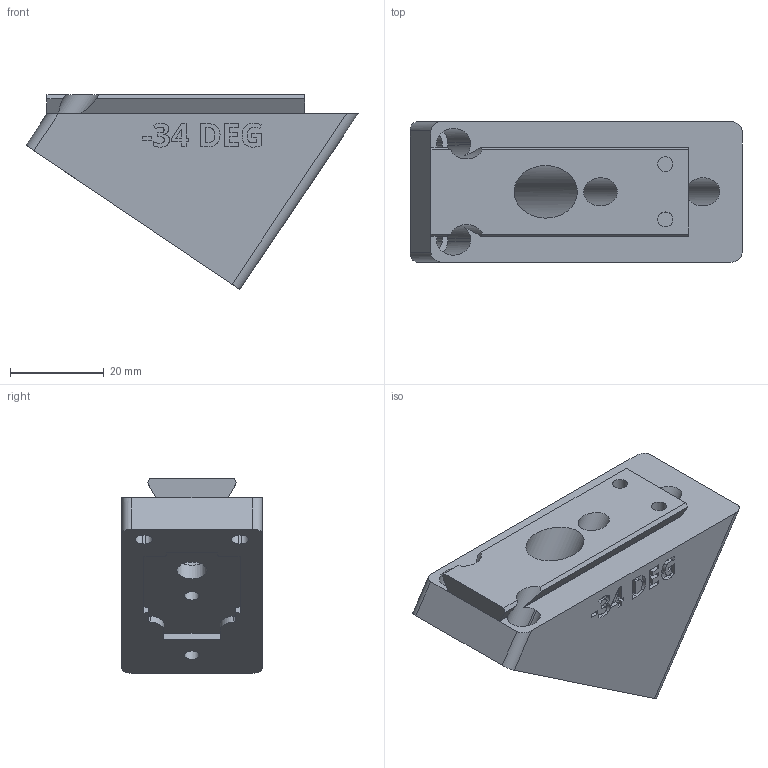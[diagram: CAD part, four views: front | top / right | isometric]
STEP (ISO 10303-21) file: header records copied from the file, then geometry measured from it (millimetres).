
FILE_DESCRIPTION(/* description */ ('STEP AP242 Edition 2','CAx-IF Rec.Pracs.---Representation and Presentation of Product Manufacturing Information (PMI)---4.0---2014-10-13','CAx-IF Rec.Pracs.---3D Tessellated Geometry---0.4---2014-09-14','2;1','CAx-IF Rec.Pracs.---User Defined Attributes---1.5---2016-08-15'),/* implementation_level */ '2;1');
FILE_NAME(/* name */ 'Camera Wedges - CAMERA MOUNTING WEDGE, NEG, -34 DEG',/* time_stamp */ '2026-08-11T00:08:02Z',/* author */ (''),/* organization */ (''),/* preprocessor_version */ 'ST-DEVELOPER v20',/* originating_system */ 'ONSHAPE BY PTC INC, 1.219',/* authorisation */ ' ');
FILE_SCHEMA (('AP242_MANAGED_MODEL_BASED_3D_ENGINEERING_MIM_LF { 1 0 10303 442 3 1 4 }'));
Length unit declared in the file: metre
Products named in the file (1): CAMERA MOUNTING WEDGE, NEG, -34 DEG
Bounding box: 70.82 x 30 x 41.49 mm (x, y, z)
Volume: 42050 mm3; surface area: 11564.8 mm2
Topology: 1 solids, 1 shells, 277 faces, 760 edges, 506 vertices
Faces by surface type: plane 165, bspline 64, cylinder 48
Full cylindrical faces by diameter (mm): 3.2 x4, 6 x2, 6.4 x1, 11.2 x1
Entity records: 8956 total; most frequent: CARTESIAN_POINT 2238, ORIENTED_EDGE 1502, DIRECTION 1160, EDGE_CURVE 751, LINE 514, VECTOR 514, VERTEX_POINT 505, AXIS2_PLACEMENT_3D 323
